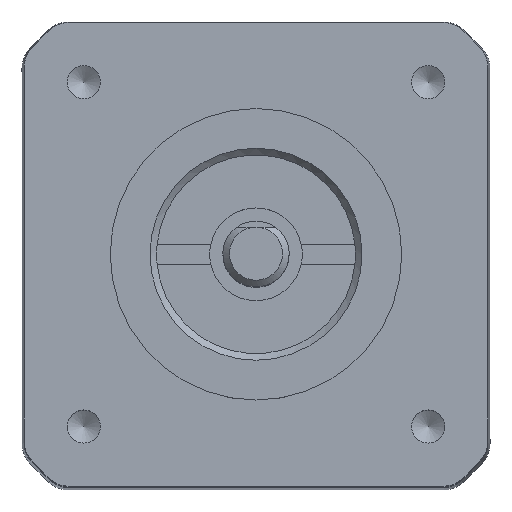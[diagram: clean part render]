
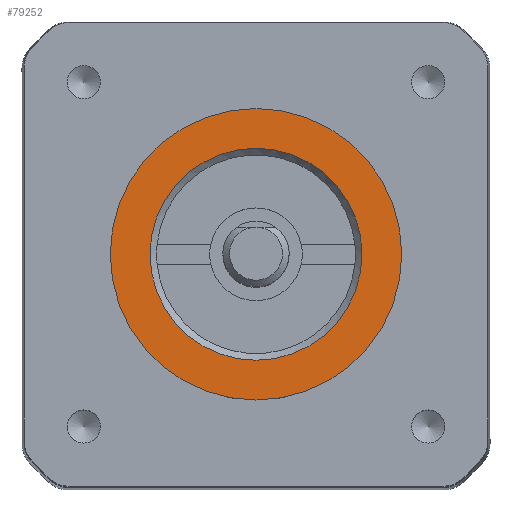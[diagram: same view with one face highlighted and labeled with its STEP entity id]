
A CAD part, top view. The second image highlights one B-rep face of the part: STEP entity #79252.
In plain terms, the highlighted planar face has unit normal (0, 0, 1).
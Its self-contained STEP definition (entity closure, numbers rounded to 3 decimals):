
#910 = CARTESIAN_POINT ( 'NONE',  ( 11., 0., 56.75 ) ) ;
#1367 = PLANE ( 'NONE',  #29317 ) ;
#3253 = DIRECTION ( 'NONE',  ( 0., 0., 1. ) ) ;
#8153 = DIRECTION ( 'NONE',  ( 0., 0., 1. ) ) ;
#13669 = VERTEX_POINT ( 'NONE', #910 ) ;
#15238 = AXIS2_PLACEMENT_3D ( 'NONE', #44522, #62773, #63210 ) ;
#16157 = CIRCLE ( 'NONE', #78364, 11. ) ;
#27309 = DIRECTION ( 'NONE',  ( 1., 0., 0. ) ) ;
#28554 = CARTESIAN_POINT ( 'NONE',  ( 0., 0., 56.75 ) ) ;
#29317 = AXIS2_PLACEMENT_3D ( 'NONE', #28554, #8153, #27309 ) ;
#35132 = CARTESIAN_POINT ( 'NONE',  ( 0., 0., 56.75 ) ) ;
#41583 = CARTESIAN_POINT ( 'NONE',  ( 8., 0., 56.75 ) ) ;
#42322 = CIRCLE ( 'NONE', #15238, 8. ) ;
#44522 = CARTESIAN_POINT ( 'NONE',  ( 0., 0., 56.75 ) ) ;
#48135 = EDGE_CURVE ( 'NONE', #13669, #13669, #16157, .T. ) ;
#54405 = EDGE_CURVE ( 'NONE', #62288, #62288, #42322, .T. ) ;
#54470 = ORIENTED_EDGE ( 'NONE', *, *, #54405, .F. ) ;
#54538 = DIRECTION ( 'NONE',  ( 1., 0., 0. ) ) ;
#62288 = VERTEX_POINT ( 'NONE', #41583 ) ;
#62773 = DIRECTION ( 'NONE',  ( 0., 0., 1. ) ) ;
#63210 = DIRECTION ( 'NONE',  ( 1., 0., 0. ) ) ;
#66000 = ORIENTED_EDGE ( 'NONE', *, *, #48135, .T. ) ;
#67900 = FACE_OUTER_BOUND ( 'NONE', #73269, .T. ) ;
#73269 = EDGE_LOOP ( 'NONE', ( #66000 ) ) ;
#78364 = AXIS2_PLACEMENT_3D ( 'NONE', #35132, #3253, #54538 ) ;
#79252 = ADVANCED_FACE ( 'NONE', ( #79745, #67900 ), #1367, .T. ) ;
#79745 = FACE_BOUND ( 'NONE', #80206, .T. ) ;
#80206 = EDGE_LOOP ( 'NONE', ( #54470 ) ) ;
